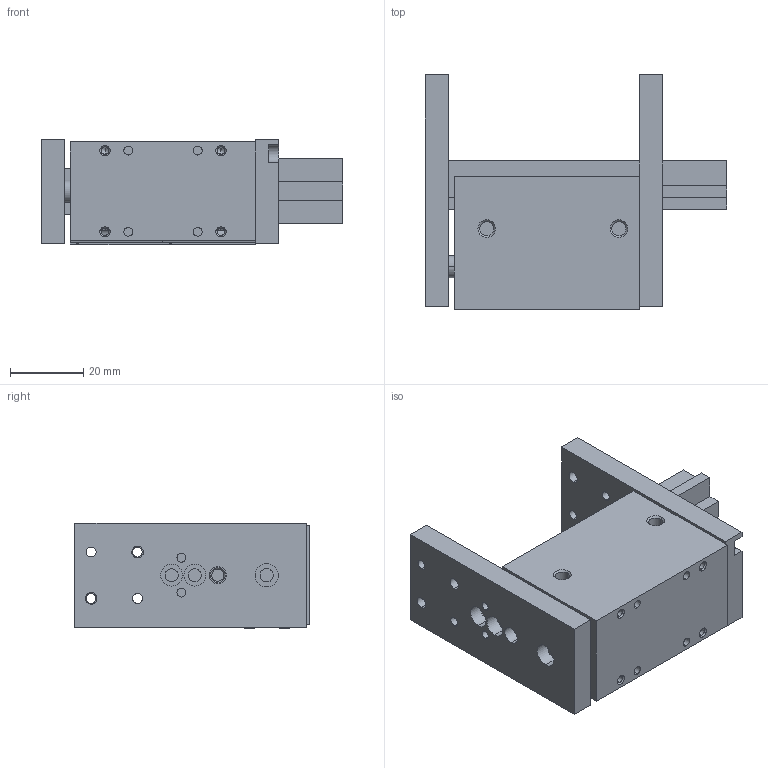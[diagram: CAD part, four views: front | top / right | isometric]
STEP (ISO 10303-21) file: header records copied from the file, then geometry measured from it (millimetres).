
FILE_DESCRIPTION (( 'STEP AP203' ), '1' );
FILE_NAME ('AGPS-2-2 CLOSED in MM.STEP', '2014-11-21T17:24:58', ( 'setup' ), ( '' ), 'SwSTEP 2.0', 'SolidWorks 2013', '' );
FILE_SCHEMA (( 'CONFIG_CONTROL_DESIGN' ));
Length unit declared in the file: millimetre
Products named in the file (8): AGPS-2-2 RAIL; AGPS-2-2 PROD; AGPS-2-2 SENSOR; AGPS-2-2 END PLATE B; AGPS-2-2 END PLATE A; AGPS-2-2 CLOSED in MM; AGPS-2-2 BODY; AGPS-2-2 CUSHION
Assembly tree (8 placements, depth 2):
  AGPS-2-2 CLOSED in MM
    AGPS-2-2 BODY
    AGPS-2-2 CUSHION
    AGPS-2-2 RAIL
    AGPS-2-2 PROD
    AGPS-2-2 SENSOR  x2
    AGPS-2-2 END PLATE B
    AGPS-2-2 END PLATE A
Bounding box: 82.55 x 64.21 x 29 mm (x, y, z)
Volume: 73462 mm3; surface area: 30704.7 mm2
Topology: 8 solids, 8 shells, 308 faces, 739 edges, 472 vertices
Faces by surface type: cylinder 139, plane 127, cone 40, torus 2
Entity records: 9232 total; most frequent: DIRECTION 1524, CARTESIAN_POINT 1510, ORIENTED_EDGE 1332, EDGE_CURVE 666, AXIS2_PLACEMENT_3D 576, VERTEX_POINT 432, VECTOR 372, LINE 372
